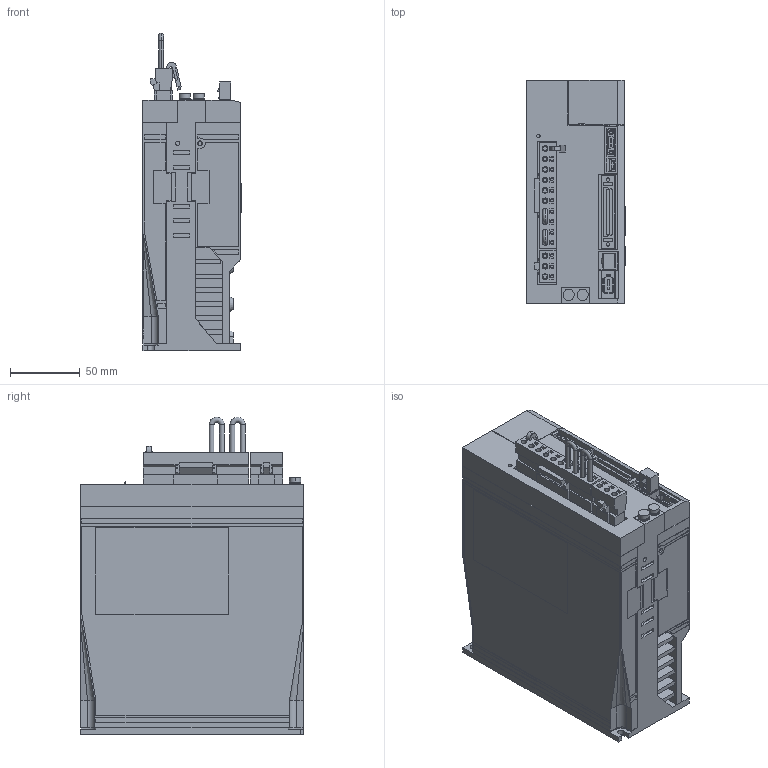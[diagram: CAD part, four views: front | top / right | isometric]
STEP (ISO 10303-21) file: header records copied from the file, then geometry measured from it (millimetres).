
FILE_DESCRIPTION (( 'STEP AP203' ), '1' );
FILE_NAME ('sgdv_3r8a0_a.STEP', '2008-06-17T08:29:15', ( 'T' ), ( 'T' ), 'SwSTEP 2.0', 'SolidWorks 2006052', '' );
FILE_SCHEMA (( 'CONFIG_CONTROL_DESIGN' ));
Products named in the file (10): sgdv_3r8a0_a_base; sgdv_3r8a0_a_cover; sgdv_3r8a0_a_cover2; sgdv_3r8a0_a; sgdv_3r8a0_a_connector_1; sgdv_3r8a0_a_connector; sgdv_3r8a0_a_connector_2; sgdv_3r8a0_a_cable; sgdv_3r8a0_a_pin; sgdv_3r8a0_a_connector_3
Assembly tree (11 placements, depth 3):
  sgdv_3r8a0_a
    sgdv_3r8a0_a_base
    sgdv_3r8a0_a_connector_1
    sgdv_3r8a0_a_cover2  x2
    sgdv_3r8a0_a_connector_3
    sgdv_3r8a0_a_cover
    sgdv_3r8a0_a_connector
      sgdv_3r8a0_a_connector_2
      sgdv_3r8a0_a_cable  x2
      sgdv_3r8a0_a_pin
Bounding box: 70.5 x 160 x 228 mm (x, y, z)
Volume: 1877606.6 mm3; surface area: 166791.3 mm2
Topology: 10 solids, 10 shells, 1940 faces, 5020 edges, 3309 vertices
Faces by surface type: plane 1653, cylinder 269, cone 11, torus 4, bspline 2, sphere 1
Entity records: 58530 total; most frequent: CARTESIAN_POINT 10186, ORIENTED_EDGE 9880, DIRECTION 9323, EDGE_CURVE 4940, LINE 4379, VECTOR 4379, VERTEX_POINT 3257, AXIS2_PLACEMENT_3D 2472
